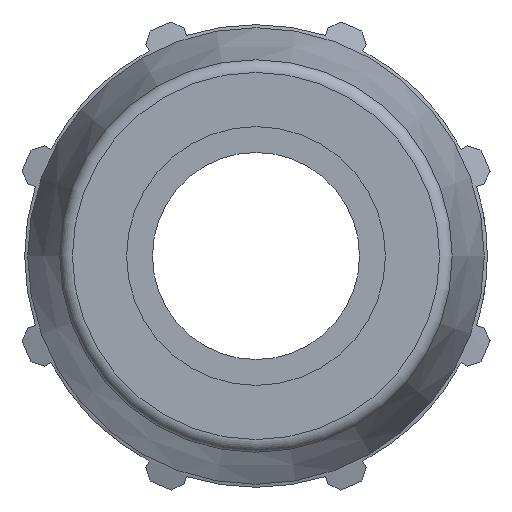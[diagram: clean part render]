
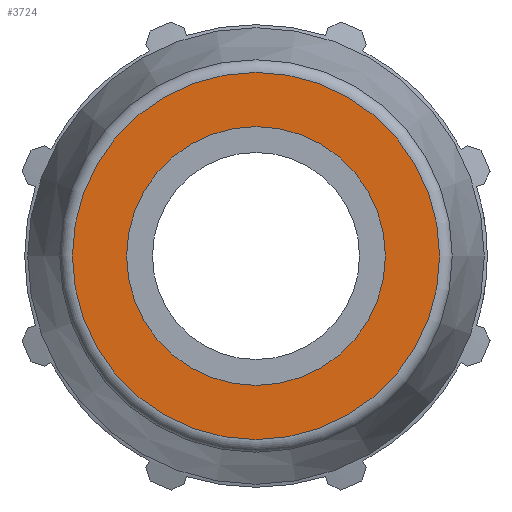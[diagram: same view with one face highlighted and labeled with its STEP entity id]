
A CAD part, left-side view. The second image highlights one B-rep face of the part: STEP entity #3724.
In plain terms, the highlighted planar face has unit normal (-1, 0, 0).
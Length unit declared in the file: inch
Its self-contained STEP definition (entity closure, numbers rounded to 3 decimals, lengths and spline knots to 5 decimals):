
#135=FACE_BOUND('',#500,.T.);
#183=PLANE('',#3985);
#305=FACE_OUTER_BOUND('',#499,.T.);
#499=EDGE_LOOP('',(#2640,#2641));
#500=EDGE_LOOP('',(#2642,#2643));
#759=CIRCLE('',#3982,0.93019);
#760=CIRCLE('',#3983,0.93019);
#762=CIRCLE('',#3986,0.65551);
#763=CIRCLE('',#3987,0.65551);
#1537=VERTEX_POINT('',#5663);
#1538=VERTEX_POINT('',#5665);
#1539=VERTEX_POINT('',#5670);
#1540=VERTEX_POINT('',#5671);
#1967=EDGE_CURVE('',#1537,#1538,#759,.T.);
#1968=EDGE_CURVE('',#1538,#1537,#760,.T.);
#1970=EDGE_CURVE('',#1539,#1540,#762,.T.);
#1971=EDGE_CURVE('',#1540,#1539,#763,.T.);
#2640=ORIENTED_EDGE('',*,*,#1968,.F.);
#2641=ORIENTED_EDGE('',*,*,#1967,.F.);
#2642=ORIENTED_EDGE('',*,*,#1970,.T.);
#2643=ORIENTED_EDGE('',*,*,#1971,.T.);
#3724=ADVANCED_FACE('',(#305,#135),#183,.T.);
#3982=AXIS2_PLACEMENT_3D('',#5666,#4550,#4551);
#3983=AXIS2_PLACEMENT_3D('',#5667,#4552,#4553);
#3985=AXIS2_PLACEMENT_3D('',#5669,#4556,#4557);
#3986=AXIS2_PLACEMENT_3D('',#5672,#4558,#4559);
#3987=AXIS2_PLACEMENT_3D('',#5673,#4560,#4561);
#4550=DIRECTION('center_axis',(1.,0.,0.));
#4551=DIRECTION('ref_axis',(0.,-1.,0.));
#4552=DIRECTION('center_axis',(1.,0.,0.));
#4553=DIRECTION('ref_axis',(0.,-1.,0.));
#4556=DIRECTION('center_axis',(-1.,0.,0.));
#4557=DIRECTION('ref_axis',(0.,0.,1.));
#4558=DIRECTION('center_axis',(1.,0.,0.));
#4559=DIRECTION('ref_axis',(0.,0.,-1.));
#4560=DIRECTION('center_axis',(1.,0.,0.));
#4561=DIRECTION('ref_axis',(0.,0.,-1.));
#5663=CARTESIAN_POINT('',(-2.855,0.,0.93019));
#5665=CARTESIAN_POINT('',(-2.855,0.93019,0.));
#5666=CARTESIAN_POINT('Origin',(-2.855,0.,0.));
#5667=CARTESIAN_POINT('Origin',(-2.855,0.,0.));
#5669=CARTESIAN_POINT('Origin',(-2.855,0.98327,0.));
#5670=CARTESIAN_POINT('',(-2.855,0.65551,0.));
#5671=CARTESIAN_POINT('',(-2.855,-0.65551,0.));
#5672=CARTESIAN_POINT('Origin',(-2.855,0.,0.));
#5673=CARTESIAN_POINT('Origin',(-2.855,0.,0.));
